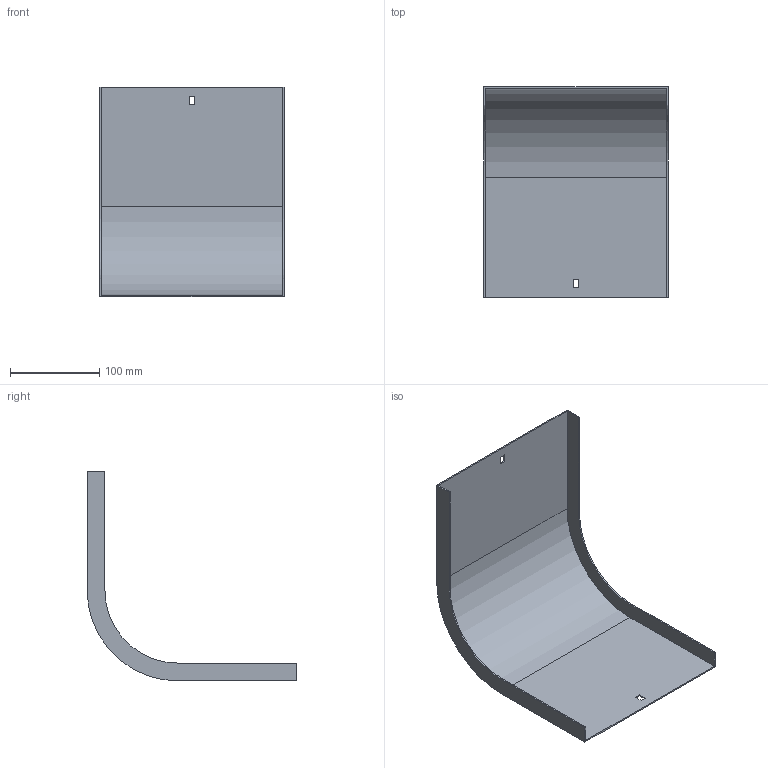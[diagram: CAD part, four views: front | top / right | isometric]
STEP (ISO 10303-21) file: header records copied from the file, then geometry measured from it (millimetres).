
FILE_DESCRIPTION (( 'STEP AP214' ), '1' );
FILE_NAME ('33G1D200.step', '2025-02-21T12:43:48', ( '' ), ( '' ), 'SwSTEP 2.0', 'SolidWorks 2023', '' );
FILE_SCHEMA (( 'AUTOMOTIVE_DESIGN' ));
Length unit declared in the file: millimetre
Products named in the file (1): 33G1D200
Bounding box: 207 x 235.5 x 235.5 mm (x, y, z)
Volume: 154963 mm3; surface area: 208634 mm2
Topology: 1 solids, 1 shells, 26 faces, 72 edges, 48 vertices
Faces by surface type: plane 22, cylinder 4
Entity records: 855 total; most frequent: CARTESIAN_POINT 147, ORIENTED_EDGE 144, DIRECTION 134, EDGE_CURVE 72, LINE 64, VECTOR 64, VERTEX_POINT 48, AXIS2_PLACEMENT_3D 35
